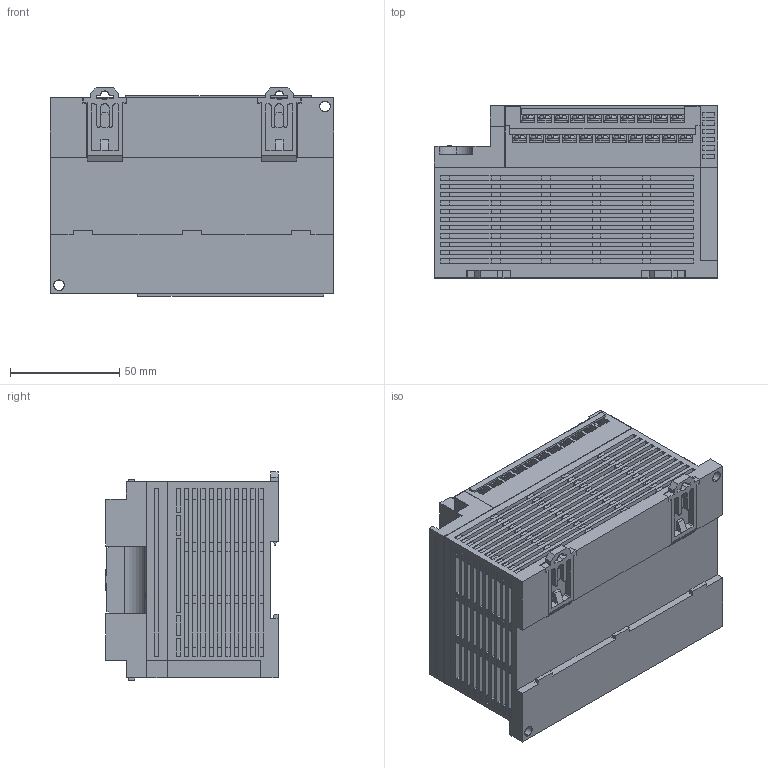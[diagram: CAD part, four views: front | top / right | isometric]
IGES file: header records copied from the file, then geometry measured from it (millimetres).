
Global section: preprocessor: SolidWorks 2010; date: 120213.170405; units: millimetre
Bounding box: 130 x 79.02 x 95.5 mm (x, y, z)
Surface area: 99171.3 mm2 (no closed solid volume)
Topology: 0 solids, 0 shells, 2881 faces, 21916 edges, 21916 vertices
Faces by surface type: bspline 2661, revolution 220
